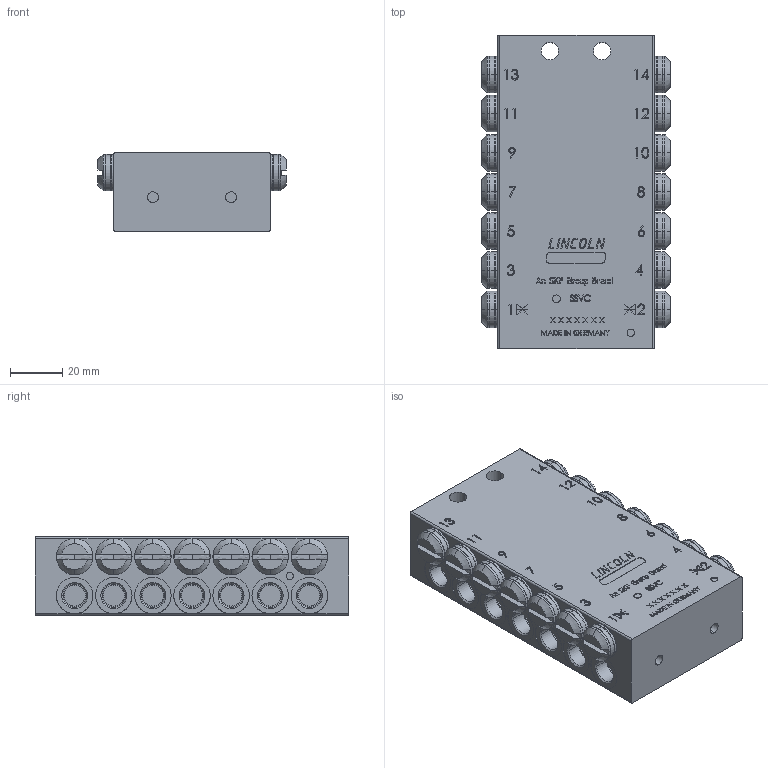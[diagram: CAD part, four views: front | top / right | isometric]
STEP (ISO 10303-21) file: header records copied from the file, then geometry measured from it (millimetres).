
FILE_DESCRIPTION (( 'STEP AP203' ), '1' );
FILE_NAME ('619-78158-1.STEP', '2024-05-15T07:36:55', ( '' ), ( '' ), 'SwSTEP 2.0', 'SolidWorks 2019', '' );
FILE_SCHEMA (( 'CONFIG_CONTROL_DESIGN' ));
Length unit declared in the file: millimetre
Products named in the file (4): 619-78158-1; 419-74571-1_VERTEILERKOERPER_F.SSVC22_(1.4305)M11X1~03_SSVC14; 303-19718-1_SCHRAUBE,VERS.SZ__M11X1,0X_5,0(1.4571)~-j; 219-13798-3_O-RING_70NBR_10,00_X_1,00~0
Assembly tree (29 placements, depth 2):
  619-78158-1
    419-74571-1_VERTEILERKOERPER_F.SSVC22_(1.4305)M11X1~03_SSVC14
    219-13798-3_O-RING_70NBR_10,00_X_1,00~0  x14
    303-19718-1_SCHRAUBE,VERS.SZ__M11X1,0X_5,0(1.4571)~-j  x14
Bounding box: 72.18 x 120 x 30 mm (x, y, z)
Volume: 221120.4 mm3; surface area: 43507.4 mm2
Topology: 29 solids, 29 shells, 2952 faces, 7450 edges, 4766 vertices
Faces by surface type: plane 1380, bspline 698, cone 420, cylinder 342, torus 112
Entity records: 100273 total; most frequent: CARTESIAN_POINT 46912, ORIENTED_EDGE 12062, DIRECTION 8315, EDGE_CURVE 6031, VECTOR 4079, LINE 4079, VERTEX_POINT 3999, EDGE_LOOP 2520
